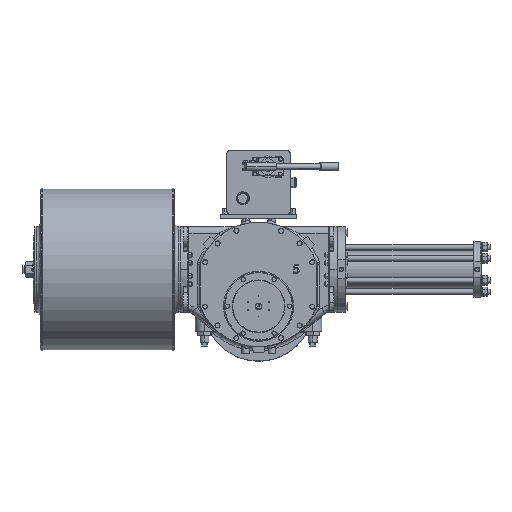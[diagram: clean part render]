
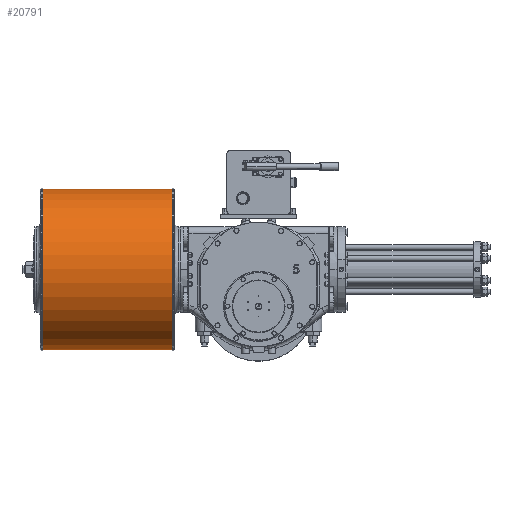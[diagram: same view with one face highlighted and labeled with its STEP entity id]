
A CAD part, top view. The second image highlights one B-rep face of the part: STEP entity #20791.
In plain terms, the highlighted cylindrical face has radius 304.8 mm (diameter 609.6 mm), a partial arc.
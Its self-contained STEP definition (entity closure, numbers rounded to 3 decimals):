
#4261 = DIRECTION ( 'NONE',  ( 1., 0., 0. ) ) ;
#8551 = CARTESIAN_POINT ( 'NONE',  ( -818.5, -164.8, 113. ) ) ;
#16491 = LINE ( 'NONE', #24608, #62358 ) ;
#20791 = ADVANCED_FACE ( 'NONE', ( #62427 ), #73962, .T. ) ;
#23510 = AXIS2_PLACEMENT_3D ( 'NONE', #72811, #108206, #28710 ) ;
#24608 = CARTESIAN_POINT ( 'NONE',  ( -328.5, -164.8, 113. ) ) ;
#24931 = CIRCLE ( 'NONE', #34190, 304.8 ) ;
#25083 = DIRECTION ( 'NONE',  ( 0., -1., 0. ) ) ;
#28710 = DIRECTION ( 'NONE',  ( 0., -1., 0. ) ) ;
#32637 = DIRECTION ( 'NONE',  ( -1., 0., 0. ) ) ;
#32731 = DIRECTION ( 'NONE',  ( -1., 0., 0. ) ) ;
#34190 = AXIS2_PLACEMENT_3D ( 'NONE', #104568, #32637, #25083 ) ;
#39253 = EDGE_CURVE ( 'NONE', #102254, #90655, #16491, .T. ) ;
#48292 = VERTEX_POINT ( 'NONE', #62234 ) ;
#49719 = CIRCLE ( 'NONE', #83076, 304.8 ) ;
#51992 = EDGE_CURVE ( 'NONE', #114424, #90655, #49719, .T. ) ;
#55881 = DIRECTION ( 'NONE',  ( 0., -1., 0. ) ) ;
#62234 = CARTESIAN_POINT ( 'NONE',  ( -328.5, 444.8, 113. ) ) ;
#62358 = VECTOR ( 'NONE', #32731, 1000. ) ;
#62427 = FACE_OUTER_BOUND ( 'NONE', #71506, .T. ) ;
#63590 = DIRECTION ( 'NONE',  ( -1., 0., 0. ) ) ;
#64727 = LINE ( 'NONE', #81583, #70555 ) ;
#65164 = CARTESIAN_POINT ( 'NONE',  ( -818.5, 140., 113. ) ) ;
#69019 = ORIENTED_EDGE ( 'NONE', *, *, #51992, .T. ) ;
#70555 = VECTOR ( 'NONE', #63590, 1000. ) ;
#71506 = EDGE_LOOP ( 'NONE', ( #104032, #109206, #69019, #94142 ) ) ;
#72811 = CARTESIAN_POINT ( 'NONE',  ( -328.5, 140., 113. ) ) ;
#73962 = CYLINDRICAL_SURFACE ( 'NONE', #23510, 304.8 ) ;
#78767 = EDGE_CURVE ( 'NONE', #102254, #48292, #24931, .T. ) ;
#81583 = CARTESIAN_POINT ( 'NONE',  ( -328.5, 444.8, 113. ) ) ;
#83076 = AXIS2_PLACEMENT_3D ( 'NONE', #65164, #4261, #55881 ) ;
#86858 = EDGE_CURVE ( 'NONE', #48292, #114424, #64727, .T. ) ;
#90655 = VERTEX_POINT ( 'NONE', #8551 ) ;
#94142 = ORIENTED_EDGE ( 'NONE', *, *, #39253, .F. ) ;
#95657 = CARTESIAN_POINT ( 'NONE',  ( -818.5, 444.8, 113. ) ) ;
#99516 = CARTESIAN_POINT ( 'NONE',  ( -328.5, -164.8, 113. ) ) ;
#102254 = VERTEX_POINT ( 'NONE', #99516 ) ;
#104032 = ORIENTED_EDGE ( 'NONE', *, *, #78767, .T. ) ;
#104568 = CARTESIAN_POINT ( 'NONE',  ( -328.5, 140., 113. ) ) ;
#108206 = DIRECTION ( 'NONE',  ( -1., 0., 0. ) ) ;
#109206 = ORIENTED_EDGE ( 'NONE', *, *, #86858, .T. ) ;
#114424 = VERTEX_POINT ( 'NONE', #95657 ) ;
